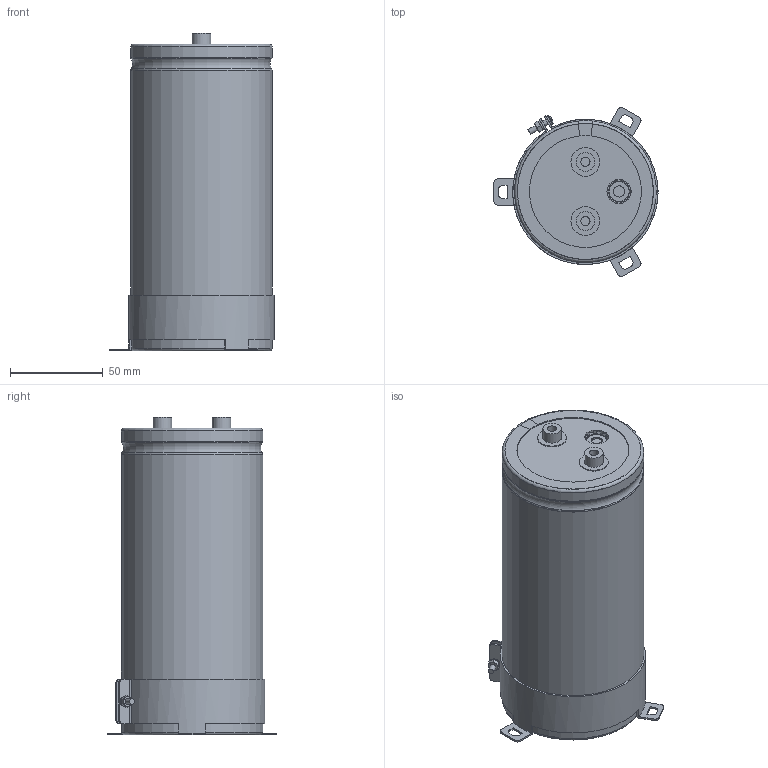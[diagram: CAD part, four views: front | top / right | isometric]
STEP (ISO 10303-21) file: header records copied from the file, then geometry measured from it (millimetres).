
FILE_DESCRIPTION(/* description */ (''),/* implementation_level */ '2;1');
FILE_NAME(/* name */ '76.2x165_Screw.stp',/* time_stamp */ '2017-09-17T13:35:51+09:00',/* author */ (''),/* organization */ (''),/* preprocessor_version */ 'ST-DEVELOPER v16',/* originating_system */ 'SIEMENS PLM Software NX 11.0',/* authorisation */ '');
FILE_SCHEMA (('AUTOMOTIVE_DESIGN { 1 0 10303 214 3 1 1 1 }'));
Length unit declared in the file: millimetre
Products named in the file (1): 76.2x165_Screw
Bounding box: 88.3 x 90.75 x 171 mm (x, y, z)
Volume: 754847.2 mm3; surface area: 148349.9 mm2
Topology: 9 solids, 9 shells, 259 faces, 642 edges, 413 vertices
Faces by surface type: plane 112, cylinder 66, torus 49, cone 31, sphere 1
Full cylindrical faces by diameter (mm): 3 x5, 5 x2, 5.5 x2, 6 x4, 8 x1, 10 x2, 13 x2, 15.5 x2, 75 x2
Entity records: 8534 total; most frequent: CARTESIAN_POINT 2182, DIRECTION 1296, ORIENTED_EDGE 1214, EDGE_CURVE 607, AXIS2_PLACEMENT_3D 541, VERTEX_POINT 408, EDGE_LOOP 317, CIRCLE 281
